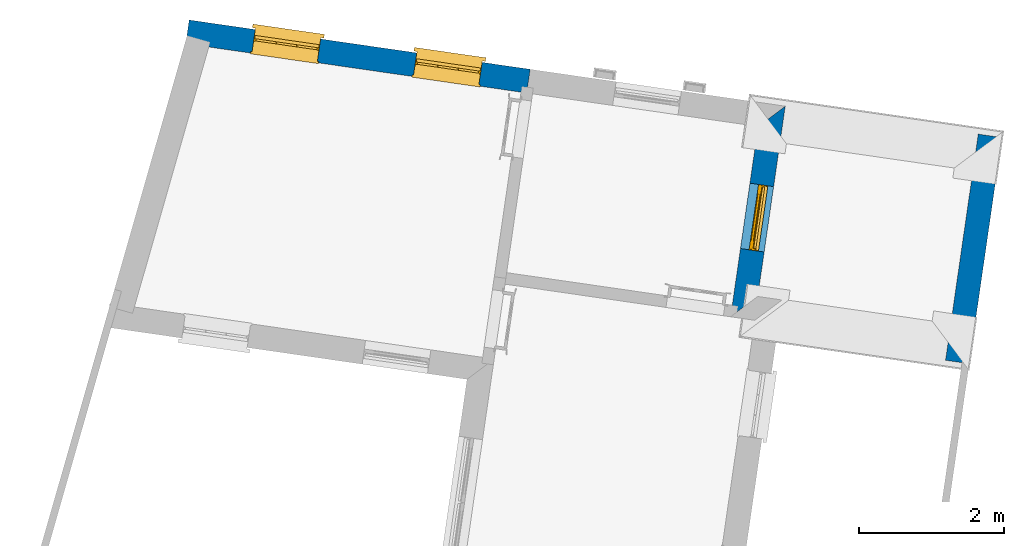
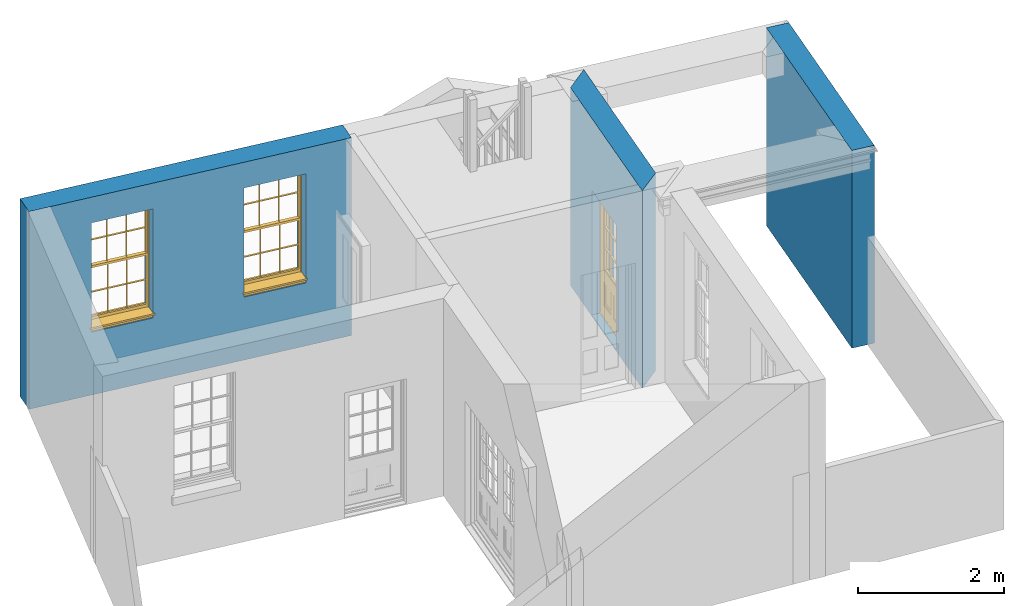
# One storey, part 5 of 7: 3 walls, 2 windows, 1 door, 3 openings.
"""IFC4 building model written with IfcOpenShell, lengths in metres."""

from ifc_helpers import new_model, si_unit, frame, origin, origin_with_axes, place, context, subcontext, project, spatial, polyline, outline, extrude, faceted_brep, source, transform, mapped, material, layer, layer_set, layer_usage, type_object, type_shapes, element, fill, save


model = new_model("IFC4")

# Units and contexts
model_context = context("Model", 3, world=origin_with_axes())
body_context = subcontext(model_context, "Body", "Model", "MODEL_VIEW")
ifc_project = project(units=[si_unit("PLANEANGLEUNIT", "RADIAN"), si_unit("MASSUNIT", "GRAM", prefix="KILO"), si_unit("FORCEUNIT", "NEWTON", prefix="KILO"), si_unit("LENGTHUNIT", "METRE"), si_unit("AREAUNIT", "SQUARE_METRE"), si_unit("VOLUMEUNIT", "CUBIC_METRE")], contexts=[model_context, model_context])

# Sites, building, storey
site_1_placement = place(None, origin_with_axes())
site_1 = spatial("IfcSite", under=ifc_project, at=site_1_placement, Name="Tamar")
site_2_placement = place(site_1_placement, origin_with_axes())
site_2 = spatial("IfcSite", under=site_1, at=site_2_placement, Name="Site plot-30", CompositionType="ELEMENT")
building_placement = place(None, origin_with_axes())
building = spatial("IfcBuilding", under=site_2, at=building_placement, Name="Building plot-30", CompositionType="ELEMENT")
storey_placement = place(None, frame((0.0, 0.0, 25.0), z_axis=(0.0, 0.0, 1.0), x_axis=(1.0, 0.0, 0.0)))
storey = spatial("IfcBuildingStorey", under=building, at=storey_placement, Name="plot-30 0", CompositionType="ELEMENT", Elevation=25.0)

# Wall, opening, door
ifc_material_1 = material(Name="Masonry")
ifc_layer_1 = layer(ifc_material_1, 0.33, ventilated=False)
ifc_layer_set_1 = layer_set([ifc_layer_1], Name="exterior_0.08_0.25")
ifc_layer_usage_1 = layer_usage(ifc_layer_set_1, "AXIS2", "POSITIVE", -0.25)
wall_type_1 = type_object("IfcWallType", Name="exterior_0.08_0.25", PredefinedType="SOLIDWALL", material=ifc_layer_set_1)
wall_1_placement = place(storey_placement, frame((289.271176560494, 260.406920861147, 0.0), z_axis=(0.0, 0.0, 1.0), x_axis=(0.143119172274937, 0.989705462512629, 0.0)))
wall_1 = element("IfcWall", 1, at=wall_1_placement, inside=storey, type_object=wall_type_1, material=ifc_layer_usage_1, Name="exterior", context=body_context, shape_type="SweptSolid", body=[
    extrude(outline(polyline([(-0.079999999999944, 0.0800000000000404), (0.249999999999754, -0.250000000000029), (2.8993968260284, -0.250000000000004), (2.56939682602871, 0.0800000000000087), (-0.079999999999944, 0.0800000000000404)])), origin_with_axes(), (0.0, 0.0, 1.0), 3.3),
])
opening_1_placement = place(wall_1_placement, frame((0.869698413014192, 0.0, 0.0199999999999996)))
opening_1 = element("IfcOpeningElement", 2, at=opening_1_placement, cuts=wall_1, Name="My Opening", ObjectType="Opening", context=body_context, shape_type="SweptSolid", body=[
    extrude(outline(polyline([(0.0, -0.270000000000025), (0.910000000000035, -0.269999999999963), (0.910000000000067, 1.10000000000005), (3.2085445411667e-14, 1.09999999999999), (0.0, -0.270000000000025)])), origin_with_axes(), (0.0, 0.0, 1.0), 2.08),
])
door_type = type_object("IfcDoorType", Name="door_panelled", OperationType="SINGLE_SWING_LEFT", PredefinedType="NOTDEFINED")
shared_shape_1 = source(origin(), body_context, "Body", "Brep", [
    faceted_brep([(0.545, 0.195, 0.265), (0.745, 0.195, 0.265), (0.745, 0.2, 0.265), (0.545, 0.2, 0.265), (0.745, 0.2, 0.58), (0.545, 0.2, 0.58), (0.545, 0.195, 0.58), (0.515, 0.19, 0.235), (0.775, 0.19, 0.235), (0.745, 0.195, 0.58), (0.515, 0.19, 0.61), (0.515, 0.185, 0.235), (0.775, 0.185, 0.235), (0.775, 0.19, 0.61), (0.515, 0.185, 0.61), (0.785, 0.185, 0.225), (0.505, 0.185, 0.225), (0.775, 0.185, 0.61), (0.505, 0.185, 0.62), (0.785, 0.185, 0.62), (0.505, 0.18, 0.225), (0.785, 0.18, 0.225), (0.505, 0.18, 0.62), (0.785, 0.18, 0.62), (0.883, 0.18, 0.075), (0.898, 0.18, 0.075), (0.405, 0.18, 0.62), (0.405, 0.18, 0.225), (0.027, 0.18, 0.075), (0.785, 0.18, 0.82), (0.125, 0.18, 0.82), (0.405, 0.185, 0.62), (0.405, 0.185, 0.225), (0.898, 0.18, 2.068), (0.027, 0.17, 0.075), (0.883, 0.17, 0.075), (0.125, 0.18, 0.225), (0.012, 0.18, 0.075), (0.785, 0.19, 0.82), (0.125, 0.19, 0.82), (0.125, 0.18, 0.62), (0.125, 0.185, 0.62), (0.395, 0.185, 0.61), (0.395, 0.185, 0.235), (0.125, 0.185, 0.225), (0.785, 0.18, 1.895), (0.027, 0.14, 0.045), (0.883, 0.14, 0.045), (0.558333, 0.19, 0.83), (0.351667, 0.19, 0.83), (0.125, 0.18, 1.895), (0.125, 0.19, 1.895), (0.785, 0.19, 1.895), (0.012, 0.18, 2.068), (0.135, 0.185, 0.61), (0.395, 0.19, 0.61), (0.395, 0.19, 0.235), (0.135, 0.185, 0.235), (0.027, 0.14, 0.027), (0.883, 0.14, 0.027), (0.568333, 0.19, 0.83), (0.558333, 0.22, 0.83), (0.351667, 0.22, 0.83), (0.341667, 0.19, 0.83), (0.135, 0.19, 1.185), (0.135, 0.19, 1.53), (0.775, 0.19, 1.53), (0.775, 0.19, 1.185), (0.135, 0.19, 0.61), (0.365, 0.195, 0.58), (0.365, 0.195, 0.265), (0.135, 0.19, 0.235), (0.568333, 0.19, 1.175), (0.558333, 0.19, 1.175), (0.775, 0.19, 0.83), (0.558333, 0.22, 1.175), (0.785, 0.22, 0.82), (0.125, 0.22, 0.82), (0.351667, 0.22, 1.175), (0.351667, 0.19, 1.175), (0.341667, 0.19, 1.175), (0.135, 0.19, 0.83), (0.135, 0.19, 1.175), (0.135, 0.22, 1.185), (0.135, 0.22, 1.53), (0.135, 0.19, 1.54), (0.351667, 0.19, 1.885), (0.558333, 0.19, 1.885), (0.775, 0.22, 1.53), (0.775, 0.22, 1.185), (0.775, 0.19, 1.175), (0.775, 0.19, 1.54), (0.165, 0.195, 0.58), (0.365, 0.2, 0.58), (0.365, 0.2, 0.265), (0.165, 0.195, 0.265), (0.568333, 0.22, 0.83), (0.568333, 0.22, 1.175), (0.568333, 0.19, 1.185), (0.558333, 0.19, 1.185), (0.775, 0.22, 0.83), (0.785, 0.23, 0.82), (0.125, 0.23, 0.82), (0.341667, 0.22, 0.83), (0.341667, 0.22, 1.175), (0.351667, 0.19, 1.185), (0.341667, 0.19, 1.185), (0.135, 0.22, 0.83), (0.341667, 0.22, 1.185), (0.125, 0.22, 1.895), (0.341667, 0.22, 1.53), (0.341667, 0.19, 1.53), (0.135, 0.19, 1.885), (0.341667, 0.19, 1.54), (0.341667, 0.19, 1.885), (0.558333, 0.22, 1.885), (0.351667, 0.22, 1.885), (0.568333, 0.19, 1.885), (0.785, 0.22, 1.895), (0.568333, 0.22, 1.185), (0.568333, 0.19, 1.53), (0.568333, 0.22, 1.53), (0.568333, 0.19, 1.54), (0.775, 0.19, 1.885), (0.165, 0.2, 0.58), (0.165, 0.2, 0.265), (0.775, 0.22, 1.175), (0.558333, 0.19, 1.53), (0.351667, 0.22, 1.185), (0.558333, 0.22, 1.185), (0.505, 0.23, 0.62), (0.405, 0.23, 0.62), (0.125, 0.23, 1.895), (0.785, 0.23, 1.895), (0.351667, 0.19, 1.53), (0.135, 0.22, 1.175), (0.135, 0.22, 1.54), (0.341667, 0.22, 1.54), (0.135, 0.22, 1.885), (0.351667, 0.19, 1.54), (0.558333, 0.22, 1.54), (0.558333, 0.19, 1.54), (0.351667, 0.22, 1.54), (0.775, 0.22, 1.54), (0.568333, 0.22, 1.54), (0.775, 0.22, 1.885), (0.558333, 0.22, 1.53), (0.405, 0.23, 0.225), (0.505, 0.23, 0.225), (0.125, 0.23, 0.62), (0.785, 0.23, 0.62), (0.012, 0.23, 2.068), (0.898, 0.23, 2.068), (0.351667, 0.22, 1.53), (0.341667, 0.22, 1.885), (0.568333, 0.22, 1.885), (0.405, 0.225, 0.225), (0.405, 0.225, 0.62), (0.505, 0.225, 0.62), (0.505, 0.225, 0.225), (0.898, 0.23, 0.027), (0.012, 0.23, 0.027), (0.125, 0.225, 0.62), (0.785, 0.225, 0.62), (0.395, 0.225, 0.235), (0.395, 0.225, 0.61), (0.125, 0.23, 0.225), (0.125, 0.225, 0.225), (0.515, 0.225, 0.61), (0.515, 0.225, 0.235), (0.785, 0.23, 0.225), (0.785, 0.225, 0.225), (0.135, 0.225, 0.61), (0.775, 0.225, 0.61), (0.135, 0.225, 0.235), (0.395, 0.22, 0.235), (0.395, 0.22, 0.61), (0.515, 0.22, 0.61), (0.515, 0.22, 0.235), (0.775, 0.225, 0.235), (0.135, 0.22, 0.61), (0.775, 0.22, 0.61), (0.135, 0.22, 0.235), (0.365, 0.215, 0.265), (0.365, 0.215, 0.58), (0.545, 0.215, 0.58), (0.545, 0.215, 0.265), (0.775, 0.22, 0.235), (0.165, 0.215, 0.58), (0.745, 0.215, 0.58), (0.165, 0.215, 0.265), (0.365, 0.21, 0.58), (0.365, 0.21, 0.265), (0.545, 0.21, 0.58), (0.545, 0.21, 0.265), (0.745, 0.215, 0.265), (0.165, 0.21, 0.58), (0.745, 0.21, 0.58), (0.165, 0.21, 0.265), (0.745, 0.21, 0.265), (0.885, 0.178, 0.025), (0.025, 0.178, 0.025), (0.025, 0.15, 0.025), (0.885, 0.15, 0.025), (0.9, 0.23, 0.025), (0.01, 0.23, 0.025), (0.9, 0.178, 0.025), (0.91, 0.23, 0.0), (0.0, 0.23, 0.0), (0.01, 0.178, 0.025), (0.9, 0.178, 2.07), (0.9, 0.23, 2.07), (0.885, 0.178, 2.055), (0.91, 0.23, 2.08), (0.01, 0.23, 2.07), (0.0, 0.23, 2.08), (0.01, 0.178, 2.07), (0.025, 0.178, 2.055), (0.0, 0.1, 2.08), (0.91, 0.1, 2.08), (0.01, 0.1, 2.07), (0.9, 0.1, 2.07), (0.01, 0.15, 2.07), (0.9, 0.15, 2.07), (0.0, 0.1, 0.0), (0.91, 0.1, 0.0), (0.01, 0.1, 0.025), (0.9, 0.1, 0.025), (0.01, 0.15, 0.025), (0.025, 0.15, 2.055), (0.9, 0.15, 0.025), (0.885, 0.15, 2.055), (0.898, 0.18, 0.027), (0.012, 0.18, 0.027), (0.883, 0.18, 0.027), (0.027, 0.18, 0.027)], [[[0, 1, 2, 3]], [[2, 4, 5, 3]], [[0, 3, 5, 6]], [[1, 0, 7, 8]], [[9, 4, 2, 1]], [[9, 6, 5, 4]], [[0, 6, 10, 7]], [[8, 7, 11, 12]], [[8, 13, 9, 1]], [[13, 10, 6, 9]], [[7, 10, 14, 11]], [[15, 12, 11, 16]], [[12, 17, 13, 8]], [[17, 14, 10, 13]], [[18, 16, 11, 14]], [[15, 19, 17, 12]], [[15, 16, 20, 21]], [[14, 17, 19, 18]], [[16, 18, 22, 20]], [[21, 23, 19, 15]], [[24, 25, 21, 20]], [[23, 22, 18, 19]], [[20, 22, 26, 27]], [[23, 21, 25]], [[28, 24, 20, 27]], [[22, 23, 29]], [[29, 30, 26, 22]], [[27, 26, 31, 32]], [[23, 25, 33, 29]], [[34, 35, 24, 28]], [[28, 27, 36, 37]], [[38, 39, 30, 29]], [[26, 30, 40]], [[26, 40, 41, 31]], [[42, 43, 32, 31]], [[32, 44, 36, 27]], [[33, 45, 29]], [[46, 47, 35, 34]], [[36, 40, 37]], [[39, 38, 48, 49]], [[50, 30, 39, 51]], [[29, 45, 52, 38]], [[53, 37, 40, 30]], [[44, 41, 40, 36]], [[31, 41, 54, 42]], [[43, 42, 55, 56]], [[57, 44, 32, 43]], [[50, 45, 33, 53]], [[47, 46, 58, 59]], [[60, 48, 38]], [[49, 48, 61, 62]], [[49, 63, 39]], [[50, 53, 30]], [[51, 39, 64, 65]], [[45, 50, 51, 52]], [[66, 67, 38, 52]], [[57, 54, 41, 44]], [[42, 54, 68, 55]], [[56, 55, 69, 70]], [[56, 71, 57, 43]], [[60, 72, 73, 48]], [[60, 38, 74]], [[48, 73, 75, 61]], [[76, 77, 62, 61]], [[62, 78, 79, 49]], [[49, 79, 80, 63]], [[63, 81, 39]], [[82, 64, 39]], [[65, 64, 83, 84]], [[85, 51, 65]], [[52, 51, 86, 87]], [[88, 89, 67, 66]], [[90, 38, 67]], [[91, 66, 52]], [[71, 68, 54, 57]], [[55, 68, 92, 69]], [[69, 93, 94, 70]], [[70, 95, 71, 56]], [[96, 97, 72, 60]], [[73, 72, 98, 99]], [[74, 38, 90]], [[100, 96, 60, 74]], [[75, 73, 79, 78]], [[61, 75, 97, 96]], [[101, 102, 77, 76]], [[77, 103, 62]], [[96, 76, 61]], [[103, 104, 78, 62]], [[80, 79, 105, 106]], [[63, 80, 104, 103]], [[81, 63, 103, 107]], [[81, 82, 39]], [[106, 64, 82, 80]], [[106, 108, 83, 64]], [[84, 83, 77, 109]], [[110, 111, 65, 84]], [[112, 51, 85]], [[113, 85, 65, 111]], [[114, 86, 51]], [[115, 87, 86, 116]], [[117, 52, 87]], [[118, 76, 89, 88]], [[119, 98, 67, 89]], [[120, 121, 88, 66]], [[67, 98, 72, 90]], [[91, 122, 120, 66]], [[91, 52, 123]], [[95, 92, 68, 71]], [[69, 92, 124, 93]], [[94, 93, 124, 125]], [[94, 125, 95, 70]], [[72, 97, 126, 90]], [[127, 99, 98, 120]], [[99, 105, 79, 73]], [[74, 90, 126, 100]], [[96, 100, 76]], [[128, 129, 75, 78]], [[97, 75, 129, 119]], [[130, 131, 102, 101]], [[109, 77, 102, 132]], [[133, 101, 76, 118]], [[77, 107, 103]], [[78, 104, 108, 128]], [[111, 106, 105, 134]], [[104, 80, 82, 135]], [[107, 135, 82, 81]], [[110, 108, 106, 111]], [[104, 135, 83, 108]], [[83, 135, 77]], [[136, 84, 109]], [[110, 84, 136, 137]], [[114, 51, 112]], [[85, 136, 138, 112]], [[113, 137, 136, 85]], [[111, 134, 139, 113]], [[86, 114, 113, 139]], [[140, 141, 87, 115]], [[139, 142, 116, 86]], [[109, 118, 115, 116]], [[117, 123, 52]], [[117, 87, 141, 122]], [[126, 89, 76]], [[143, 118, 88]], [[120, 98, 119, 121]], [[119, 89, 126, 97]], [[144, 143, 88, 121]], [[144, 122, 91, 143]], [[127, 120, 122, 141]], [[143, 91, 123, 145]], [[124, 92, 95, 125]], [[146, 129, 99, 127]], [[99, 129, 128, 105]], [[100, 126, 76]], [[121, 119, 129, 146]], [[147, 131, 130, 148]], [[131, 149, 102]], [[130, 101, 150]], [[102, 151, 132]], [[118, 109, 132, 133]], [[101, 133, 152]], [[107, 77, 135]], [[153, 128, 108, 110]], [[134, 105, 128, 153]], [[109, 138, 136]], [[153, 110, 137, 142]], [[154, 114, 112, 138]], [[137, 113, 114, 154]], [[141, 139, 134, 127]], [[141, 140, 142, 139]], [[144, 140, 115, 155]], [[142, 137, 154, 116]], [[155, 115, 118]], [[116, 154, 109]], [[117, 155, 145, 123]], [[122, 144, 155, 117]], [[143, 145, 118]], [[121, 146, 140, 144]], [[146, 127, 134, 153]], [[156, 157, 131, 147]], [[148, 130, 158, 159]], [[148, 160, 161, 147]], [[157, 162, 149, 131]], [[161, 151, 102, 149]], [[101, 152, 160, 150]], [[163, 158, 130, 150]], [[151, 152, 133, 132]], [[154, 138, 109]], [[142, 140, 146, 153]], [[145, 155, 118]], [[157, 156, 164, 165]], [[147, 166, 167, 156]], [[168, 169, 159, 158]], [[170, 148, 159, 171]], [[148, 170, 160]], [[166, 147, 161]], [[172, 162, 157, 165]], [[166, 149, 162, 167]], [[166, 161, 149]], [[150, 160, 170]], [[163, 173, 168, 158]], [[171, 163, 150, 170]], [[174, 164, 156, 167]], [[175, 176, 165, 164]], [[169, 168, 177, 178]], [[171, 159, 169, 179]], [[167, 162, 172, 174]], [[176, 180, 172, 165]], [[179, 173, 163, 171]], [[181, 177, 168, 173]], [[164, 174, 182, 175]], [[183, 184, 176, 175]], [[178, 177, 185, 186]], [[179, 169, 178, 187]], [[174, 172, 180, 182]], [[184, 188, 180, 176]], [[187, 181, 173, 179]], [[189, 185, 177, 181]], [[175, 182, 190, 183]], [[191, 184, 183, 192]], [[185, 193, 194, 186]], [[187, 178, 186, 195]], [[182, 180, 188, 190]], [[191, 196, 188, 184]], [[195, 189, 181, 187]], [[197, 193, 185, 189]], [[183, 190, 198, 192]], [[198, 196, 191, 192]], [[194, 193, 197, 199]], [[195, 186, 194, 199]], [[188, 196, 198, 190]], [[197, 189, 195, 199]], [[200, 201, 202, 203]], [[201, 200, 204, 205]], [[206, 204, 200]], [[204, 207, 208, 205]], [[209, 201, 205]], [[210, 211, 204, 206]], [[206, 200, 212, 210]], [[211, 213, 207, 204]], [[214, 205, 208, 215]], [[216, 217, 201, 209]], [[205, 214, 216, 209]], [[216, 214, 211, 210]], [[210, 212, 217, 216]], [[214, 215, 213, 211]], [[218, 219, 213, 215]], [[219, 218, 220, 221]], [[221, 220, 222, 223]], [[215, 208, 224, 218]], [[225, 224, 208, 207]], [[224, 226, 220, 218]], [[224, 225, 227, 226]], [[219, 225, 207, 213]], [[228, 222, 220, 226]], [[219, 221, 227, 225]], [[226, 227, 203, 202]], [[202, 229, 222, 228]], [[228, 226, 202]], [[227, 221, 223, 230]], [[230, 203, 227]], [[217, 229, 202, 201]], [[231, 223, 222, 229]], [[230, 223, 231, 203]], [[231, 229, 217, 212]], [[212, 200, 203, 231]], [[33, 152, 151, 53]], [[25, 160, 152, 33]], [[161, 37, 53, 151]], [[232, 160, 25]], [[161, 233, 37]], [[160, 232, 234]], [[24, 234, 232, 25]], [[233, 161, 235]], [[37, 233, 235, 28]], [[161, 160, 234, 235]], [[35, 47, 234, 24]], [[28, 235, 46, 34]], [[58, 235, 234, 59]], [[59, 234, 47]], [[58, 46, 235]]]),
])
type_shapes(door_type, [shared_shape_1])
door_placement = place(storey_placement, frame((289.662867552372, 261.229023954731, 0.0199999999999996), z_axis=(0.0, 0.0, 1.0), x_axis=(0.130238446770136, 0.900631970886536, 0.0)))
door = element("IfcDoor", 3, at=door_placement, inside=storey, type_object=door_type, Name="circulation sahn door", OverallHeight=2.08, OverallWidth=0.91, context=body_context, shape_type="MappedRepresentation", body=[
    mapped(shared_shape_1, transform((0.0, 0.0, 0.0), scale=1.0)),
])
fill(opening_1, door)

# Wall, openings, windows
wall_2_placement = place(storey_placement, frame((286.383321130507, 263.50148224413, 0.0), z_axis=(0.0, 0.0, 1.0), x_axis=(-0.989705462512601, 0.143119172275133, 0.0)))
wall_2 = element("IfcWall", 4, at=wall_2_placement, inside=storey, type_object=wall_type_1, material=ifc_layer_usage_1, Name="exterior", context=body_context, shape_type="SweptSolid", body=[
    extrude(outline(polyline([(1.47007134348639e-16, 0.0800000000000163), (-1.54723031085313e-14, -0.249999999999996), (4.74689612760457, -0.250000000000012), (4.74689612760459, 0.08), (1.47007134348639e-16, 0.0800000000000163)])), origin_with_axes(), (0.0, 0.0, 1.0), 3.3),
])
opening_2_placement = place(wall_2_placement, frame((0.669224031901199, 0.0, 1.05)))
opening_2 = element("IfcOpeningElement", 5, at=opening_2_placement, cuts=wall_2, Name="My Opening", ObjectType="Opening", context=body_context, shape_type="SweptSolid", body=[
    extrude(outline(polyline([(0.0, -0.270000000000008), (0.909999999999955, -0.270000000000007), (0.909999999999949, 1.09999999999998), (-6.32827124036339e-15, 1.09999999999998), (0.0, -0.270000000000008)])), origin_with_axes(), (0.0, 0.0, 1.0), 1.82),
])
opening_3_placement = place(wall_2_placement, frame((2.91767209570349, 0.0, 1.05)))
opening_3 = element("IfcOpeningElement", 6, at=opening_3_placement, cuts=wall_2, Name="My Opening", ObjectType="Opening", context=body_context, shape_type="SweptSolid", body=[
    extrude(outline(polyline([(0.0, -0.26999999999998), (0.909999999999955, -0.269999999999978), (0.909999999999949, 1.10000000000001), (-7.54951656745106e-15, 1.10000000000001), (0.0, -0.26999999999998)])), origin_with_axes(), (0.0, 0.0, 1.0), 1.82),
])
window_type = type_object("IfcWindowType", Name="sash_big", PartitioningType="DOUBLE_PANEL_HORIZONTAL", PredefinedType="NOTDEFINED")
shared_shape_2 = source(origin(), body_context, "Body", "Brep", [
    faceted_brep([(0.033125, 0.145, 0.975209), (0.01, 0.145, 0.975209), (0.033125, 0.145, 1.376042), (0.876875, 0.145, 0.975209), (0.876875, 0.145, 1.376042), (0.9, 0.145, 0.975209), (0.876875, 0.145, 1.386042), (0.876875, 0.145, 1.786875), (0.9, 0.145, 1.81), (0.033125, 0.145, 1.786875), (0.033125, 0.145, 1.386042), (0.01, 0.145, 1.81), (0.876875, 0.115, 1.376042), (0.876875, 0.115, 0.975209), (0.9, 0.115, 0.937083), (0.033125, 0.115, 1.786875), (0.01, 0.115, 1.81), (0.033125, 0.115, 1.386042), (0.01, 0.115, 0.937083), (0.033125, 0.115, 0.975209), (0.033125, 0.115, 1.376042), (0.876875, 0.115, 1.786875), (0.876875, 0.115, 1.386042), (0.9, 0.115, 1.81), (0.033125, 0.145, 0.937083), (0.01, 0.145, 0.937083), (0.033125, 0.145, 0.53625), (0.876875, 0.145, 0.937083), (0.876875, 0.145, 0.53625), (0.9, 0.145, 0.937083), (0.876875, 0.145, 0.52625), (0.876875, 0.145, 0.125417), (0.9, 0.145, 0.077167), (0.033125, 0.145, 0.125417), (0.033125, 0.145, 0.52625), (0.01, 0.145, 0.077167), (-0.0425, 0.0, 0.01), (-0.0425, -0.05, 0.001667), (0.0, 0.0, 0.01), (0.9525, 0.0, 0.01), (0.91, 0.0, 0.01), (0.9525, -0.05, 0.001667), (-0.02, 0.33, 0.077167), (0.0, 0.33, 0.077167), (-0.02, 0.36, 0.077167), (0.0, 0.19, 0.077167), (0.01, 0.19, 0.077167), (0.91, 0.19, 0.077167), (0.91, 0.33, 0.077167), (0.9, 0.19, 0.077167), (0.93, 0.33, 0.077167), (0.93, 0.36, 0.077167), (0.01, 0.175, 0.975209), (0.9, 0.175, 0.975209), (0.876875, 0.175, 0.125417), (0.876875, 0.175, 0.52625), (0.9, 0.175, 0.077167), (0.876875, 0.175, 0.53625), (0.876875, 0.175, 0.937083), (0.033125, 0.175, 0.125417), (0.01, 0.175, 0.077167), (0.033125, 0.175, 0.52625), (0.033125, 0.175, 0.937083), (0.033125, 0.175, 0.53625), (-0.02, 0.33, 0.052167), (-0.02, 0.36, 0.052167), (0.93, 0.36, 0.052167), (0.93, 0.33, 0.052167), (0.91, 0.33, 0.052167), (0.0, 0.33, 0.052167), (0.91, 0.1, 0.026667), (0.0, 0.1, 0.026667), (-0.0425, -0.05, -0.123333), (0.9525, -0.05, -0.123333), (-0.0425, 0.0, -0.123333), (0.9525, 0.0, -0.123333), (0.01, 0.19, 1.81), (0.9, 0.19, 1.81), (0.0, 0.19, 1.82), (0.91, 0.19, 1.82), (0.01, 0.1, 0.077167), (0.9, 0.1, 0.077167), (0.592292, 0.145, 0.125417), (0.592292, 0.175, 0.125417), (0.317708, 0.175, 0.125417), (0.317708, 0.145, 0.125417), (0.592292, 0.145, 0.53625), (0.317708, 0.145, 0.53625), (0.317708, 0.145, 0.52625), (0.592292, 0.145, 0.52625), (0.592292, 0.175, 0.53625), (0.317708, 0.175, 0.53625), (0.592292, 0.115, 1.386042), (0.592292, 0.145, 1.386042), (0.317708, 0.145, 1.386042), (0.317708, 0.115, 1.386042), (0.317708, 0.115, 1.376042), (0.592292, 0.115, 1.376042), (0.317708, 0.145, 1.376042), (0.592292, 0.145, 1.376042), (0.602292, 0.115, 1.376042), (0.592292, 0.115, 0.975209), (0.602292, 0.115, 0.975209), (0.602292, 0.145, 0.975209), (0.592292, 0.145, 0.975209), (0.602292, 0.145, 1.376042), (0.602292, 0.175, 0.53625), (0.602292, 0.145, 0.53625), (0.317708, 0.175, 0.52625), (0.307708, 0.175, 0.125417), (0.307708, 0.175, 0.52625), (0.602292, 0.175, 0.52625), (0.602292, 0.175, 0.125417), (0.592292, 0.175, 0.52625), (0.307708, 0.175, 0.53625), (0.317708, 0.175, 0.937083), (0.307708, 0.175, 0.937083), (0.602292, 0.175, 0.937083), (0.592292, 0.175, 0.937083), (0.307708, 0.145, 0.52625), (0.307708, 0.145, 0.125417), (0.307708, 0.145, 0.53625), (0.307708, 0.145, 0.937083), (0.592292, 0.145, 0.937083), (0.317708, 0.145, 0.937083), (0.602292, 0.145, 0.937083), (0.602292, 0.145, 0.52625), (0.602292, 0.145, 0.125417), (0.307708, 0.115, 1.386042), (0.307708, 0.115, 1.376042), (0.307708, 0.115, 0.975209), (0.317708, 0.115, 0.975209), (0.317708, 0.115, 1.786875), (0.307708, 0.115, 1.786875), (0.602292, 0.115, 1.786875), (0.592292, 0.115, 1.786875), (0.602292, 0.115, 1.386042), (0.602292, 0.145, 1.386042), (0.307708, 0.145, 1.386042), (0.307708, 0.145, 1.786875), (0.317708, 0.145, 1.786875), (0.592292, 0.145, 1.786875), (0.602292, 0.145, 1.786875), (0.307708, 0.145, 1.376042), (0.317708, 0.145, 0.975209), (0.307708, 0.145, 0.975209), (0.91, 0.1, 1.82), (0.9, 0.1, 1.81), (0.01, 0.1, 1.81), (0.0, 0.1, 1.82), (0.91, 0.0, 0.0), (0.0, 0.0, 0.0), (0.91, 0.33, 0.0), (0.0, 0.33, 0.0)], [[[0, 1, 2]], [[3, 4, 5]], [[6, 7, 8]], [[9, 10, 11]], [[12, 13, 14]], [[15, 16, 17]], [[18, 19, 20]], [[21, 22, 23]], [[24, 25, 26]], [[27, 28, 29]], [[30, 31, 32]], [[33, 34, 35]], [[14, 27, 29]], [[25, 24, 18]], [[36, 37, 38]], [[39, 40, 41]], [[42, 43, 44]], [[45, 46, 43]], [[47, 48, 49]], [[50, 51, 48]], [[1, 0, 52]], [[5, 53, 3]], [[54, 55, 56]], [[57, 58, 53]], [[59, 60, 61]], [[62, 63, 52]], [[48, 43, 46, 49]], [[51, 44, 43, 48]], [[64, 42, 44, 65]], [[65, 44, 51, 66]], [[66, 51, 50, 67]], [[65, 66, 68, 69]], [[60, 56, 49, 46]], [[70, 71, 38, 40]], [[37, 41, 40, 38]], [[37, 72, 73, 41]], [[74, 75, 73, 72]], [[8, 11, 76, 77]], [[76, 78, 79, 77]], [[32, 35, 80, 81]], [[81, 80, 71, 70]], [[82, 83, 84, 85]], [[86, 87, 88, 89]], [[86, 90, 91, 87]], [[92, 93, 94, 95]], [[92, 95, 96, 97]], [[96, 98, 99, 97]], [[100, 97, 101, 102]], [[103, 104, 99, 105]], [[97, 99, 104, 101]], [[102, 103, 105, 100]], [[28, 57, 106, 107]], [[108, 84, 109, 110]], [[111, 112, 83, 113]], [[114, 110, 61, 63]], [[90, 113, 108, 91]], [[115, 91, 114, 116]], [[117, 106, 90, 118]], [[111, 106, 57, 55]], [[119, 110, 109, 120]], [[34, 61, 110, 119]], [[89, 113, 83, 82]], [[88, 108, 113, 89]], [[85, 84, 108, 88]], [[121, 114, 63, 26]], [[122, 116, 114, 121]], [[123, 118, 90, 86]], [[87, 91, 115, 124]], [[107, 106, 117, 125]], [[126, 111, 55, 30]], [[127, 112, 111, 126]], [[126, 30, 28, 107]], [[88, 119, 120, 85]], [[126, 89, 82, 127]], [[125, 123, 86, 107]], [[121, 26, 34, 119]], [[124, 122, 121, 87]], [[128, 17, 20, 129]], [[96, 129, 130, 131]], [[132, 133, 128, 95]], [[134, 135, 92, 136]], [[100, 12, 22, 136]], [[137, 6, 4, 105]], [[94, 138, 139, 140]], [[137, 93, 141, 142]], [[99, 98, 94, 93]], [[143, 2, 10, 138]], [[144, 145, 143, 98]], [[129, 143, 145, 130]], [[20, 2, 143, 129]], [[131, 144, 98, 96]], [[128, 138, 10, 17]], [[133, 139, 138, 128]], [[135, 141, 93, 92]], [[95, 94, 140, 132]], [[22, 6, 137, 136]], [[136, 137, 142, 134]], [[100, 105, 4, 12]], [[107, 86, 89, 126]], [[106, 111, 113, 90]], [[91, 108, 110, 114]], [[87, 121, 119, 88]], [[97, 100, 136, 92]], [[129, 96, 95, 128]], [[98, 143, 138, 94]], [[105, 99, 93, 137]], [[131, 101, 104, 144]], [[124, 115, 118, 123]], [[132, 140, 141, 135]], [[120, 109, 59, 33]], [[15, 9, 139, 133]], [[134, 142, 7, 21]], [[31, 54, 112, 127]], [[36, 74, 72, 37]], [[39, 41, 73, 75]], [[18, 14, 101, 131]], [[23, 16, 132, 135]], [[83, 56, 60, 84]], [[52, 53, 118, 115]], [[53, 52, 144, 104]], [[11, 8, 141, 140]], [[14, 18, 124, 123]], [[2, 1, 11, 10]], [[8, 5, 4, 6]], [[57, 53, 56, 55]], [[60, 52, 63, 61]], [[26, 25, 35, 34]], [[32, 29, 28, 30]], [[14, 23, 22, 12]], [[18, 20, 17, 16]], [[19, 0, 2, 20]], [[17, 10, 9, 15]], [[12, 4, 3, 13]], [[21, 7, 6, 22]], [[27, 58, 57, 28]], [[30, 55, 54, 31]], [[33, 59, 61, 34]], [[26, 63, 62, 24]], [[5, 8, 77, 53]], [[76, 11, 1, 52]], [[46, 45, 78, 76]], [[49, 77, 79, 47]], [[70, 146, 147, 81]], [[71, 80, 148, 149]], [[19, 130, 145, 0]], [[102, 13, 3, 103]], [[116, 122, 24, 62]], [[29, 32, 81, 14]], [[80, 35, 25, 18]], [[60, 46, 76, 52]], [[77, 49, 56, 53]], [[23, 14, 81, 147]], [[16, 148, 80, 18]], [[35, 85, 120]], [[120, 33, 35]], [[127, 82, 32]], [[32, 31, 127]], [[32, 82, 85, 35]], [[102, 101, 14]], [[14, 13, 102]], [[18, 131, 130]], [[130, 19, 18]], [[134, 21, 23]], [[23, 135, 134]], [[16, 15, 133]], [[133, 132, 16]], [[11, 140, 139]], [[139, 9, 11]], [[142, 141, 8]], [[8, 7, 142]], [[23, 147, 148, 16]], [[146, 149, 148, 147]], [[52, 115, 116]], [[116, 62, 52]], [[118, 53, 117]], [[58, 117, 53]], [[27, 125, 117, 58]], [[56, 83, 112]], [[112, 54, 56]], [[109, 84, 60]], [[60, 59, 109]], [[125, 27, 14]], [[14, 123, 125]], [[122, 124, 18]], [[18, 24, 122]], [[145, 144, 52]], [[52, 0, 145]], [[103, 3, 53]], [[53, 104, 103]], [[79, 78, 149, 146]], [[78, 45, 71, 149]], [[146, 70, 47, 79]], [[150, 75, 74, 151]], [[68, 66, 67]], [[48, 68, 67, 50]], [[69, 64, 65]], [[42, 64, 69, 43]], [[69, 68, 152, 153]], [[70, 68, 48, 47]], [[150, 152, 68, 70]], [[43, 69, 71, 45]], [[69, 153, 151, 71]], [[152, 150, 151, 153]], [[38, 151, 74, 36]], [[71, 151, 38]], [[39, 75, 150, 40]], [[40, 150, 70]]]),
])
type_shapes(window_type, [shared_shape_2])
window_1_placement = place(storey_placement, frame((285.759628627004, 263.864481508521, 1.05), z_axis=(0.0, 0.0, 1.0), x_axis=(-0.900631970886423, 0.130238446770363, 0.0)))
window_1 = element("IfcWindow", 7, at=window_1_placement, inside=storey, type_object=window_type, Name="kitchen street window", OverallHeight=1.82, OverallWidth=0.91, context=body_context, shape_type="MappedRepresentation", body=[
    mapped(shared_shape_2, transform((0.0, 0.0, 0.0), scale=1.0)),
])
fill(opening_2, window_1)
window_2_placement = place(storey_placement, frame((283.534327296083, 264.186277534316, 1.05), z_axis=(0.0, 0.0, 1.0), x_axis=(-0.900631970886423, 0.130238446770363, 0.0)))
window_2 = element("IfcWindow", 8, at=window_2_placement, inside=storey, type_object=window_type, Name="kitchen street window", OverallHeight=1.82, OverallWidth=0.91, context=body_context, shape_type="MappedRepresentation", body=[
    mapped(shared_shape_2, transform((0.0, 0.0, 0.0), scale=1.0)),
])
fill(opening_3, window_2)

# Wall
ifc_material_2 = material(Name="Masonry")
ifc_layer_2 = layer(ifc_material_2, 0.33, ventilated=False)
ifc_layer_set_2 = layer_set([ifc_layer_2], Name="party_0.08_0.25")
ifc_layer_usage_2 = layer_usage(ifc_layer_set_2, "AXIS2", "POSITIVE", -0.25)
wall_type_2 = type_object("IfcWallType", Name="party_0.08_0.25", PredefinedType="SOLIDWALL", material=ifc_layer_set_2)
wall_3_placement = place(storey_placement, frame((292.256583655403, 259.975207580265, 0.0), z_axis=(0.0, 0.0, 1.0), x_axis=(0.143119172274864, 0.98970546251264, 0.0)))
element("IfcWall", 9, at=wall_3_placement, inside=storey, type_object=wall_type_2, material=ifc_layer_usage_2, Name="party", context=body_context, shape_type="SweptSolid", body=[
    extrude(outline(polyline([(-0.249999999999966, 0.0800000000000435), (-0.250000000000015, -0.24999999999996), (2.89939682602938, -0.250000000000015), (2.89939682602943, 0.0799999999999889), (-0.249999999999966, 0.0800000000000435)])), origin_with_axes(), (0.0, 0.0, 1.0), 3.3),
])

save(model, "model.ifc")
